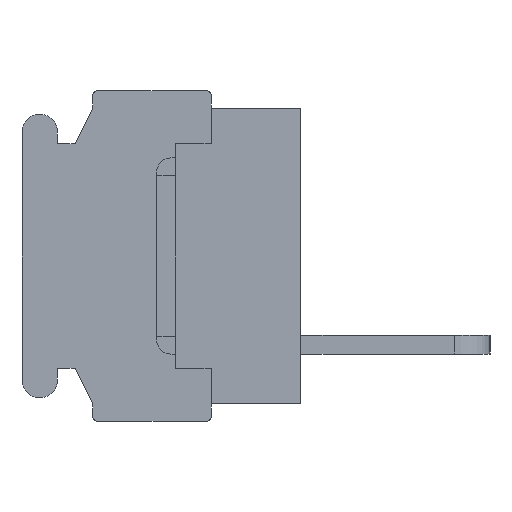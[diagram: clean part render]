
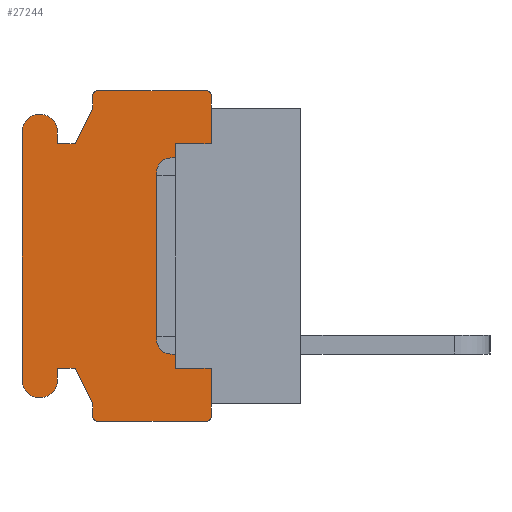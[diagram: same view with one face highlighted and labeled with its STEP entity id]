
A CAD part, left-side view. The second image highlights one B-rep face of the part: STEP entity #27244.
In plain terms, the highlighted planar face has unit normal (-1, 0, 0).
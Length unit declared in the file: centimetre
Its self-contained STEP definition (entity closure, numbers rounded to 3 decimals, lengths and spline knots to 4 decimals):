
#1555=PLANE('',#44798);
#2306=VECTOR('',#28656,1.);
#4135=VECTOR('',#32711,1.);
#4136=VECTOR('',#32712,1.);
#4137=VECTOR('',#32715,1.);
#4138=VECTOR('',#32718,1.);
#4139=VECTOR('',#32719,1.);
#4140=VECTOR('',#32720,1.);
#4141=VECTOR('',#32721,1.);
#4142=VECTOR('',#32724,1.);
#4143=VECTOR('',#32727,1.);
#4144=VECTOR('',#32728,1.);
#4145=VECTOR('',#32729,1.);
#4146=VECTOR('',#32730,1.);
#4147=VECTOR('',#32733,1.);
#4148=VECTOR('',#32736,1.);
#4149=VECTOR('',#32737,1.);
#4150=VECTOR('',#32738,1.);
#4151=VECTOR('',#32739,1.);
#5182=LINE('',#35522,#2306);
#7011=LINE('',#41434,#4135);
#7012=LINE('',#41436,#4136);
#7013=LINE('',#41440,#4137);
#7014=LINE('',#41444,#4138);
#7015=LINE('',#41446,#4139);
#7016=LINE('',#41448,#4140);
#7017=LINE('',#41450,#4141);
#7018=LINE('',#41454,#4142);
#7019=LINE('',#41458,#4143);
#7020=LINE('',#41460,#4144);
#7021=LINE('',#41462,#4145);
#7022=LINE('',#41464,#4146);
#7023=LINE('',#41468,#4147);
#7024=LINE('',#41472,#4148);
#7025=LINE('',#41473,#4149);
#7026=LINE('',#41475,#4150);
#7027=LINE('',#41476,#4151);
#7999=VERTEX_POINT('',#35523);
#8000=VERTEX_POINT('',#35524);
#8102=VERTEX_POINT('',#35805);
#8155=VERTEX_POINT('',#35916);
#9732=VERTEX_POINT('',#41435);
#9733=VERTEX_POINT('',#41437);
#9734=VERTEX_POINT('',#41439);
#9735=VERTEX_POINT('',#41441);
#9736=VERTEX_POINT('',#41443);
#9737=VERTEX_POINT('',#41445);
#9738=VERTEX_POINT('',#41447);
#9739=VERTEX_POINT('',#41449);
#9740=VERTEX_POINT('',#41451);
#9741=VERTEX_POINT('',#41453);
#9742=VERTEX_POINT('',#41455);
#9743=VERTEX_POINT('',#41457);
#9744=VERTEX_POINT('',#41459);
#9745=VERTEX_POINT('',#41461);
#9746=VERTEX_POINT('',#41463);
#9747=VERTEX_POINT('',#41465);
#9748=VERTEX_POINT('',#41467);
#9749=VERTEX_POINT('',#41469);
#9750=VERTEX_POINT('',#41471);
#9751=VERTEX_POINT('',#41474);
#10678=CIRCLE('',#44799,0.02);
#10679=CIRCLE('',#44800,0.02);
#10680=CIRCLE('',#44801,0.075);
#10681=CIRCLE('',#44802,0.075);
#10682=CIRCLE('',#44803,0.02);
#10683=CIRCLE('',#44804,0.02);
#11492=EDGE_CURVE('',#7999,#8000,#5182,.T.);
#14114=EDGE_CURVE('',#9732,#8102,#7011,.T.);
#14115=EDGE_CURVE('',#9733,#8102,#7012,.T.);
#14116=EDGE_CURVE('',#9734,#9733,#10678,.T.);
#14117=EDGE_CURVE('',#9735,#9734,#7013,.T.);
#14118=EDGE_CURVE('',#9736,#9735,#10679,.T.);
#14119=EDGE_CURVE('',#9737,#9736,#7014,.T.);
#14120=EDGE_CURVE('',#9738,#9737,#7015,.T.);
#14121=EDGE_CURVE('',#9739,#9738,#7016,.T.);
#14122=EDGE_CURVE('',#9740,#9739,#7017,.T.);
#14123=EDGE_CURVE('',#9741,#9740,#10680,.T.);
#14124=EDGE_CURVE('',#9742,#9741,#7018,.T.);
#14125=EDGE_CURVE('',#9743,#9742,#10681,.T.);
#14126=EDGE_CURVE('',#9744,#9743,#7019,.T.);
#14127=EDGE_CURVE('',#9745,#9744,#7020,.T.);
#14128=EDGE_CURVE('',#9746,#9745,#7021,.T.);
#14129=EDGE_CURVE('',#9747,#9746,#7022,.T.);
#14130=EDGE_CURVE('',#9748,#9747,#10682,.T.);
#14131=EDGE_CURVE('',#9749,#9748,#7023,.T.);
#14132=EDGE_CURVE('',#9750,#9749,#10683,.T.);
#14133=EDGE_CURVE('',#8155,#9750,#7024,.T.);
#14134=EDGE_CURVE('',#8155,#9751,#7025,.T.);
#14135=EDGE_CURVE('',#9751,#7999,#7026,.T.);
#14136=EDGE_CURVE('',#8000,#9732,#7027,.T.);
#21492=ORIENTED_EDGE('',*,*,#14114,.T.);
#21493=ORIENTED_EDGE('',*,*,#14115,.F.);
#21494=ORIENTED_EDGE('',*,*,#14116,.F.);
#21495=ORIENTED_EDGE('',*,*,#14117,.F.);
#21496=ORIENTED_EDGE('',*,*,#14118,.F.);
#21497=ORIENTED_EDGE('',*,*,#14119,.F.);
#21498=ORIENTED_EDGE('',*,*,#14120,.F.);
#21499=ORIENTED_EDGE('',*,*,#14121,.F.);
#21500=ORIENTED_EDGE('',*,*,#14122,.F.);
#21501=ORIENTED_EDGE('',*,*,#14123,.F.);
#21502=ORIENTED_EDGE('',*,*,#14124,.F.);
#21503=ORIENTED_EDGE('',*,*,#14125,.F.);
#21504=ORIENTED_EDGE('',*,*,#14126,.F.);
#21505=ORIENTED_EDGE('',*,*,#14127,.F.);
#21506=ORIENTED_EDGE('',*,*,#14128,.F.);
#21507=ORIENTED_EDGE('',*,*,#14129,.F.);
#21508=ORIENTED_EDGE('',*,*,#14130,.F.);
#21509=ORIENTED_EDGE('',*,*,#14131,.F.);
#21510=ORIENTED_EDGE('',*,*,#14132,.F.);
#21511=ORIENTED_EDGE('',*,*,#14133,.F.);
#21512=ORIENTED_EDGE('',*,*,#14134,.T.);
#21513=ORIENTED_EDGE('',*,*,#14135,.T.);
#21514=ORIENTED_EDGE('',*,*,#11492,.T.);
#21515=ORIENTED_EDGE('',*,*,#14136,.T.);
#24078=EDGE_LOOP('',(#21492,#21493,#21494,#21495,#21496,#21497,#21498,#21499,
#21500,#21501,#21502,#21503,#21504,#21505,#21506,#21507,#21508,#21509,#21510,
#21511,#21512,#21513,#21514,#21515));
#25738=FACE_BOUND('',#24078,.T.);
#27244=ADVANCED_FACE('',(#25738),#1555,.F.);
#28656=DIRECTION('',(0.,0.,1.));
#32710=DIRECTION('',(1.,0.,0.));
#32711=DIRECTION('',(0.,0.,1.));
#32712=DIRECTION('',(0.,0.,-1.));
#32713=DIRECTION('',(1.,0.,0.));
#32714=DIRECTION('',(0.,0.,-0.02));
#32715=DIRECTION('',(0.,-1.,0.));
#32716=DIRECTION('',(1.,0.,0.));
#32717=DIRECTION('',(0.,0.,-0.02));
#32718=DIRECTION('',(0.,0.,1.));
#32719=DIRECTION('',(0.,-0.447,0.894));
#32720=DIRECTION('',(0.,-1.,0.));
#32721=DIRECTION('',(0.,0.,-1.));
#32722=DIRECTION('',(1.,0.,0.));
#32723=DIRECTION('',(0.,0.,-0.075));
#32724=DIRECTION('',(0.,0.,1.));
#32725=DIRECTION('',(1.,0.,0.));
#32726=DIRECTION('',(0.,0.,-0.075));
#32727=DIRECTION('',(0.,0.,-1.));
#32728=DIRECTION('',(0.,1.,0.));
#32729=DIRECTION('',(0.,0.447,0.894));
#32730=DIRECTION('',(0.,0.,1.));
#32731=DIRECTION('',(1.,0.,0.));
#32732=DIRECTION('',(0.,0.,-0.02));
#32733=DIRECTION('',(0.,1.,0.));
#32734=DIRECTION('',(1.,0.,0.));
#32735=DIRECTION('',(0.,0.,-0.02));
#32736=DIRECTION('',(0.,0.,-1.));
#32737=DIRECTION('',(0.,0.,1.));
#32738=DIRECTION('',(0.,1.,0.));
#32739=DIRECTION('',(0.,-1.,0.));
#35522=CARTESIAN_POINT('',(-0.762,0.53,0.));
#35523=CARTESIAN_POINT('',(-0.762,0.53,-0.475));
#35524=CARTESIAN_POINT('',(-0.762,0.53,0.475));
#35805=CARTESIAN_POINT('',(-0.762,0.38,0.625));
#35916=CARTESIAN_POINT('',(-0.762,0.38,-0.625));
#41433=CARTESIAN_POINT('',(-0.762,0.6059,0.));
#41434=CARTESIAN_POINT('',(-0.762,0.38,0.275));
#41435=CARTESIAN_POINT('',(-0.762,0.38,0.475));
#41436=CARTESIAN_POINT('',(-0.762,0.38,0.68));
#41437=CARTESIAN_POINT('',(-0.762,0.38,0.68));
#41438=CARTESIAN_POINT('',(-0.762,0.4,0.68));
#41439=CARTESIAN_POINT('',(-0.762,0.4,0.7));
#41440=CARTESIAN_POINT('',(-0.762,0.86,0.7));
#41441=CARTESIAN_POINT('',(-0.762,0.86,0.7));
#41442=CARTESIAN_POINT('',(-0.762,0.86,0.68));
#41443=CARTESIAN_POINT('',(-0.762,0.88,0.68));
#41444=CARTESIAN_POINT('',(-0.762,0.88,0.625));
#41445=CARTESIAN_POINT('',(-0.762,0.88,0.625));
#41446=CARTESIAN_POINT('',(-0.762,0.955,0.475));
#41447=CARTESIAN_POINT('',(-0.762,0.955,0.475));
#41448=CARTESIAN_POINT('',(-0.762,1.03,0.475));
#41449=CARTESIAN_POINT('',(-0.762,1.03,0.475));
#41450=CARTESIAN_POINT('',(-0.762,1.03,0.525));
#41451=CARTESIAN_POINT('',(-0.762,1.03,0.525));
#41452=CARTESIAN_POINT('',(-0.762,1.105,0.525));
#41453=CARTESIAN_POINT('',(-0.762,1.18,0.525));
#41454=CARTESIAN_POINT('',(-0.762,1.18,-0.525));
#41455=CARTESIAN_POINT('',(-0.762,1.18,-0.525));
#41456=CARTESIAN_POINT('',(-0.762,1.105,-0.525));
#41457=CARTESIAN_POINT('',(-0.762,1.03,-0.525));
#41458=CARTESIAN_POINT('',(-0.762,1.03,-0.475));
#41459=CARTESIAN_POINT('',(-0.762,1.03,-0.475));
#41460=CARTESIAN_POINT('',(-0.762,0.955,-0.475));
#41461=CARTESIAN_POINT('',(-0.762,0.955,-0.475));
#41462=CARTESIAN_POINT('',(-0.762,0.88,-0.625));
#41463=CARTESIAN_POINT('',(-0.762,0.88,-0.625));
#41464=CARTESIAN_POINT('',(-0.762,0.88,-0.68));
#41465=CARTESIAN_POINT('',(-0.762,0.88,-0.68));
#41466=CARTESIAN_POINT('',(-0.762,0.86,-0.68));
#41467=CARTESIAN_POINT('',(-0.762,0.86,-0.7));
#41468=CARTESIAN_POINT('',(-0.762,0.4,-0.7));
#41469=CARTESIAN_POINT('',(-0.762,0.4,-0.7));
#41470=CARTESIAN_POINT('',(-0.762,0.4,-0.68));
#41471=CARTESIAN_POINT('',(-0.762,0.38,-0.68));
#41472=CARTESIAN_POINT('',(-0.762,0.38,-0.625));
#41473=CARTESIAN_POINT('',(-0.762,0.38,-0.275));
#41474=CARTESIAN_POINT('',(-0.762,0.38,-0.475));
#41475=CARTESIAN_POINT('',(-0.762,0.5304,-0.475));
#41476=CARTESIAN_POINT('',(-0.762,0.5304,0.475));
#44798=AXIS2_PLACEMENT_3D('',#41433,#32710,$);
#44799=AXIS2_PLACEMENT_3D('',#41438,#32713,#32714);
#44800=AXIS2_PLACEMENT_3D('',#41442,#32716,#32717);
#44801=AXIS2_PLACEMENT_3D('',#41452,#32722,#32723);
#44802=AXIS2_PLACEMENT_3D('',#41456,#32725,#32726);
#44803=AXIS2_PLACEMENT_3D('',#41466,#32731,#32732);
#44804=AXIS2_PLACEMENT_3D('',#41470,#32734,#32735);
